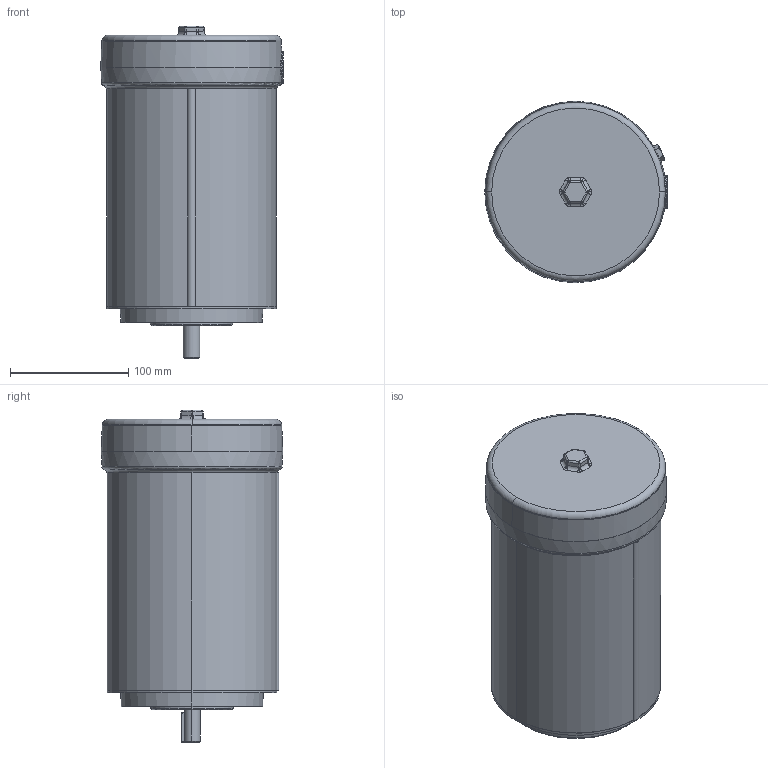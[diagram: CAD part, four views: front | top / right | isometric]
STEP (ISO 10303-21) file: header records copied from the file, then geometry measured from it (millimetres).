
FILE_DESCRIPTION (( 'STEP AP203' ), '1' );
FILE_NAME ('031993-725_Rev02.STEP', '2017-07-12T17:55:44', ( 'admin' ), ( '' ), 'SwSTEP 2.0', 'SolidWorks 2015', '' );
FILE_SCHEMA (( 'CONFIG_CONTROL_DESIGN' ));
Length unit declared in the file: inch
Products named in the file (1): 031993-725_Rev02
Bounding box: 154.59 x 153.72 x 281.31 mm (x, y, z)
Volume: 709983.3 mm3; surface area: 390839.1 mm2
Topology: 14 solids, 14 shells, 1051 faces, 2438 edges, 1399 vertices
Faces by surface type: cylinder 288, cone 197, torus 189, plane 176, bspline 154, sphere 47
Entity records: 38432 total; most frequent: CARTESIAN_POINT 15737, DIRECTION 4850, ORIENTED_EDGE 4756, EDGE_CURVE 2378, AXIS2_PLACEMENT_3D 2110, VERTEX_POINT 1399, CIRCLE 1212, EDGE_LOOP 1139
